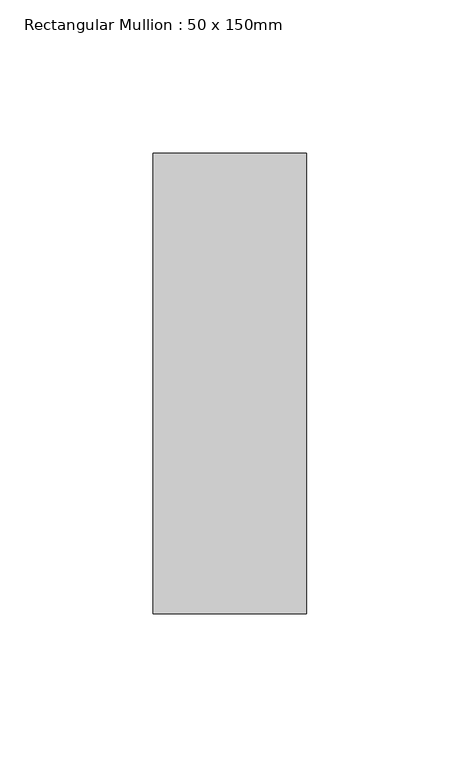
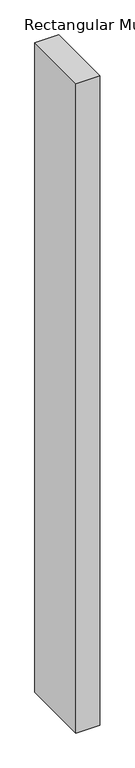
"""IFC4 building model written with IfcOpenShell, lengths in millimetres: member geometry, Rectangular Mullion : 50 x 150mm."""

from ifc_helpers import new_model, si_unit, frame, origin, place, context, project, spatial, polyline, outline, extrude, source, transform, mapped, element, save


def rectangular_mullion_50_x_150mm_5a145be0(model_context):
    return source(origin(), model_context, "Body", "SweptSolid", [
        extrude(outline(polyline([(0.0, 75.0), (0.0, -75.0), (-50.0, -75.0), (-50.0, 75.0), (0.0, 75.0)])), frame((0.0, 0.0, -1450.0), z_axis=(0.0, 0.0, 1.0), x_axis=(1.0, 0.0, 0.0)), (0.0, 0.0, 1.0), 1450.0),
    ])


if __name__ == "__main__":
    model = new_model("IFC4")
    model_context = context("Model", 3, world=origin())
    ifc_project = project(units=[si_unit("LENGTHUNIT", "METRE", prefix="MILLI")], contexts=[model_context])
    site = spatial("IfcSite", under=ifc_project)
    building = spatial("IfcBuilding", under=site)
    placement = place(None, origin())
    rectangular_mullion_50_x_150mm_shape = rectangular_mullion_50_x_150mm_5a145be0(model_context)
    element("IfcMember", 1, ObjectType="Rectangular Mullion : 50 x 150mm", at=placement, inside=building, context=model_context, shape_type="MappedRepresentation", body=[
        mapped(rectangular_mullion_50_x_150mm_shape, transform((0.0, 0.0, 0.0), x_axis=(1.0, 0.0, 0.0), y_axis=(0.0, 1.0, 0.0), z_axis=(0.0, 0.0, 1.0))),
    ])
    save(model, "model.ifc")
